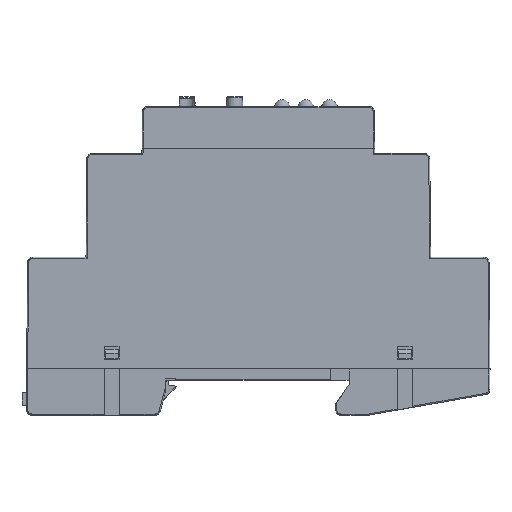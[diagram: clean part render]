
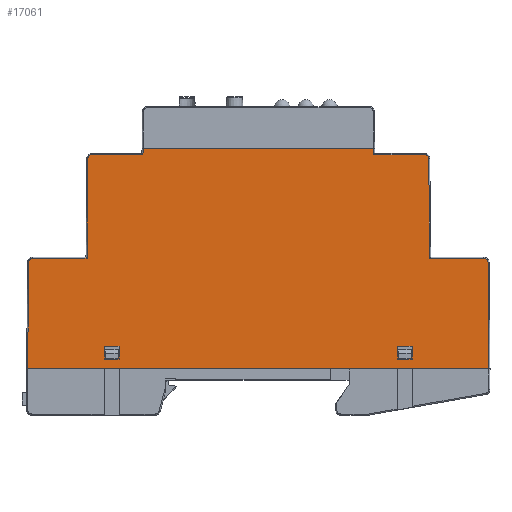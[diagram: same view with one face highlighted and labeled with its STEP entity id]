
A CAD part, top view. The second image highlights one B-rep face of the part: STEP entity #17061.
In plain terms, the highlighted planar face has unit normal (0, 0, 1).
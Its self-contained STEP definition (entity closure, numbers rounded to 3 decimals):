
#134=FACE_BOUND('',#1732,.T.);
#135=FACE_BOUND('',#1733,.T.);
#801=FACE_OUTER_BOUND('',#1731,.T.);
#1731=EDGE_LOOP('',(#11783,#11784,#11785,#11786,#11787,#11788,#11789,#11790,
#11791,#11792,#11793,#11794,#11795,#11796,#11797,#11798,#11799));
#1732=EDGE_LOOP('',(#11800,#11801,#11802,#11803));
#1733=EDGE_LOOP('',(#11804,#11805,#11806,#11807));
#2462=CIRCLE('',#17798,0.8);
#2592=CIRCLE('',#18181,0.8);
#2593=CIRCLE('',#18182,0.8);
#2594=CIRCLE('',#18183,0.8);
#2948=LINE('',#23945,#4754);
#2951=LINE('',#23953,#4757);
#2953=LINE('',#23958,#4759);
#2981=LINE('',#24099,#4787);
#2993=LINE('',#24132,#4799);
#3014=LINE('',#24210,#4820);
#3039=LINE('',#24267,#4845);
#3042=LINE('',#24273,#4848);
#3045=LINE('',#24279,#4851);
#3048=LINE('',#24285,#4854);
#3529=LINE('',#25627,#5335);
#3530=LINE('',#25631,#5336);
#3531=LINE('',#25632,#5337);
#3532=LINE('',#25634,#5338);
#3533=LINE('',#25636,#5339);
#3534=LINE('',#25640,#5340);
#3535=LINE('',#25642,#5341);
#3536=LINE('',#25645,#5342);
#3537=LINE('',#25646,#5343);
#3538=LINE('',#25647,#5344);
#3539=LINE('',#25648,#5345);
#4754=VECTOR('',#19235,10.);
#4757=VECTOR('',#19240,10.);
#4759=VECTOR('',#19244,10.);
#4787=VECTOR('',#19328,10.);
#4799=VECTOR('',#19360,10.);
#4820=VECTOR('',#19447,10.);
#4845=VECTOR('',#19490,10.);
#4848=VECTOR('',#19495,10.);
#4851=VECTOR('',#19500,10.);
#4854=VECTOR('',#19505,10.);
#5335=VECTOR('',#20658,10.);
#5336=VECTOR('',#20661,10.);
#5337=VECTOR('',#20662,10.);
#5338=VECTOR('',#20663,10.);
#5339=VECTOR('',#20664,10.);
#5340=VECTOR('',#20667,10.);
#5341=VECTOR('',#20668,10.);
#5342=VECTOR('',#20671,10.);
#5343=VECTOR('',#20672,10.);
#5344=VECTOR('',#20673,10.);
#5345=VECTOR('',#20674,10.);
#6561=VERTEX_POINT('',#23938);
#6564=VERTEX_POINT('',#23943);
#6567=VERTEX_POINT('',#23950);
#6568=VERTEX_POINT('',#23952);
#6569=VERTEX_POINT('',#23956);
#6570=VERTEX_POINT('',#23957);
#6604=VERTEX_POINT('',#24096);
#6605=VERTEX_POINT('',#24098);
#6614=VERTEX_POINT('',#24125);
#6615=VERTEX_POINT('',#24127);
#6616=VERTEX_POINT('',#24131);
#6663=VERTEX_POINT('',#24266);
#6665=VERTEX_POINT('',#24272);
#6667=VERTEX_POINT('',#24278);
#6669=VERTEX_POINT('',#24284);
#7087=VERTEX_POINT('',#25625);
#7088=VERTEX_POINT('',#25626);
#7089=VERTEX_POINT('',#25628);
#7090=VERTEX_POINT('',#25630);
#7091=VERTEX_POINT('',#25633);
#7092=VERTEX_POINT('',#25635);
#7093=VERTEX_POINT('',#25637);
#7094=VERTEX_POINT('',#25639);
#7095=VERTEX_POINT('',#25641);
#7096=VERTEX_POINT('',#25643);
#8104=EDGE_CURVE('',#6564,#6561,#2948,.T.);
#8107=EDGE_CURVE('',#6568,#6567,#2951,.T.);
#8109=EDGE_CURVE('',#6569,#6570,#2953,.T.);
#8156=EDGE_CURVE('',#6605,#6604,#2981,.T.);
#8171=EDGE_CURVE('',#6615,#6614,#2462,.T.);
#8172=EDGE_CURVE('',#6616,#6615,#2993,.T.);
#8211=EDGE_CURVE('',#6569,#6616,#3014,.T.);
#8241=EDGE_CURVE('',#6663,#6568,#3039,.T.);
#8244=EDGE_CURVE('',#6665,#6663,#3042,.T.);
#8247=EDGE_CURVE('',#6667,#6605,#3045,.T.);
#8250=EDGE_CURVE('',#6669,#6667,#3048,.T.);
#8864=EDGE_CURVE('',#7087,#7088,#3529,.T.);
#8865=EDGE_CURVE('',#7089,#7087,#2592,.T.);
#8866=EDGE_CURVE('',#7090,#7089,#3530,.T.);
#8867=EDGE_CURVE('',#6614,#7090,#3531,.T.);
#8868=EDGE_CURVE('',#7091,#6570,#3532,.T.);
#8869=EDGE_CURVE('',#7092,#7091,#3533,.T.);
#8870=EDGE_CURVE('',#7093,#7092,#2593,.T.);
#8871=EDGE_CURVE('',#7094,#7093,#3534,.T.);
#8872=EDGE_CURVE('',#7095,#7094,#3535,.T.);
#8873=EDGE_CURVE('',#7096,#7095,#2594,.T.);
#8874=EDGE_CURVE('',#6561,#7096,#3536,.T.);
#8875=EDGE_CURVE('',#7088,#6564,#3537,.T.);
#8876=EDGE_CURVE('',#6604,#6669,#3538,.T.);
#8877=EDGE_CURVE('',#6567,#6665,#3539,.T.);
#11783=ORIENTED_EDGE('',*,*,#8864,.F.);
#11784=ORIENTED_EDGE('',*,*,#8865,.F.);
#11785=ORIENTED_EDGE('',*,*,#8866,.F.);
#11786=ORIENTED_EDGE('',*,*,#8867,.F.);
#11787=ORIENTED_EDGE('',*,*,#8171,.F.);
#11788=ORIENTED_EDGE('',*,*,#8172,.F.);
#11789=ORIENTED_EDGE('',*,*,#8211,.F.);
#11790=ORIENTED_EDGE('',*,*,#8109,.T.);
#11791=ORIENTED_EDGE('',*,*,#8868,.F.);
#11792=ORIENTED_EDGE('',*,*,#8869,.F.);
#11793=ORIENTED_EDGE('',*,*,#8870,.F.);
#11794=ORIENTED_EDGE('',*,*,#8871,.F.);
#11795=ORIENTED_EDGE('',*,*,#8872,.F.);
#11796=ORIENTED_EDGE('',*,*,#8873,.F.);
#11797=ORIENTED_EDGE('',*,*,#8874,.F.);
#11798=ORIENTED_EDGE('',*,*,#8104,.F.);
#11799=ORIENTED_EDGE('',*,*,#8875,.F.);
#11800=ORIENTED_EDGE('',*,*,#8250,.T.);
#11801=ORIENTED_EDGE('',*,*,#8247,.T.);
#11802=ORIENTED_EDGE('',*,*,#8156,.T.);
#11803=ORIENTED_EDGE('',*,*,#8876,.T.);
#11804=ORIENTED_EDGE('',*,*,#8877,.T.);
#11805=ORIENTED_EDGE('',*,*,#8244,.T.);
#11806=ORIENTED_EDGE('',*,*,#8241,.T.);
#11807=ORIENTED_EDGE('',*,*,#8107,.T.);
#15521=PLANE('',#18180);
#17061=ADVANCED_FACE('',(#801,#134,#135),#15521,.T.);
#17798=AXIS2_PLACEMENT_3D('',#24129,#19356,#19357);
#18180=AXIS2_PLACEMENT_3D('',#25624,#20656,#20657);
#18181=AXIS2_PLACEMENT_3D('',#25629,#20659,#20660);
#18182=AXIS2_PLACEMENT_3D('',#25638,#20665,#20666);
#18183=AXIS2_PLACEMENT_3D('',#25644,#20669,#20670);
#19235=DIRECTION('',(0.009,1.,0.));
#19240=DIRECTION('',(0.,1.,0.));
#19244=DIRECTION('',(-1.,0.,0.));
#19328=DIRECTION('',(0.,1.,0.));
#19356=DIRECTION('center_axis',(0.,0.,
-1.));
#19357=DIRECTION('ref_axis',(0.704,0.71,0.));
#19360=DIRECTION('',(1.,0.,0.));
#19447=DIRECTION('',(0.009,-1.,0.));
#19490=DIRECTION('',(-1.,0.,0.));
#19495=DIRECTION('',(0.,-1.,0.));
#19500=DIRECTION('',(-1.,0.,0.));
#19505=DIRECTION('',(0.,-1.,0.));
#20656=DIRECTION('center_axis',(0.,0.,
1.));
#20657=DIRECTION('ref_axis',(1.,0.,0.));
#20658=DIRECTION('',(0.009,-1.,0.));
#20659=DIRECTION('center_axis',(0.,0.,
-1.));
#20660=DIRECTION('ref_axis',(0.704,0.71,0.));
#20661=DIRECTION('',(1.,0.,0.));
#20662=DIRECTION('',(0.009,-1.,0.));
#20663=DIRECTION('',(0.009,1.,0.));
#20664=DIRECTION('',(1.,0.,0.));
#20665=DIRECTION('center_axis',(0.,0.,
-1.));
#20666=DIRECTION('ref_axis',(-0.704,0.71,0.));
#20667=DIRECTION('',(0.009,1.,0.));
#20668=DIRECTION('',(1.,0.,0.));
#20669=DIRECTION('center_axis',(0.,0.,
-1.));
#20670=DIRECTION('ref_axis',(-0.704,0.71,0.));
#20671=DIRECTION('',(0.009,1.,0.));
#20672=DIRECTION('',(-1.,0.,0.));
#20673=DIRECTION('',(1.,0.,0.));
#20674=DIRECTION('',(1.,0.,0.));
#23938=CARTESIAN_POINT('',(-44.662,5.55,8.9));
#23943=CARTESIAN_POINT('',(-44.7,1.15,8.9));
#23945=CARTESIAN_POINT('',(-44.482,26.121,8.9));
#23950=CARTESIAN_POINT('',(-29.8,5.55,8.9));
#23952=CARTESIAN_POINT('',(-29.8,3.05,8.9));
#23953=CARTESIAN_POINT('',(-29.8,15.969,8.9));
#23956=CARTESIAN_POINT('',(22.341,43.9,8.9));
#23957=CARTESIAN_POINT('',(-22.341,43.9,8.9));
#23958=CARTESIAN_POINT('',(-20.902,43.9,8.9));
#24096=CARTESIAN_POINT('',(27.,5.55,8.9));
#24098=CARTESIAN_POINT('',(27.,3.05,8.9));
#24099=CARTESIAN_POINT('',(27.,17.219,8.9));
#24125=CARTESIAN_POINT('',(33.033,41.907,8.9));
#24127=CARTESIAN_POINT('',(32.233,42.7,8.9));
#24129=CARTESIAN_POINT('Origin',(32.233,41.9,8.9));
#24131=CARTESIAN_POINT('',(22.352,42.7,8.9));
#24132=CARTESIAN_POINT('',(1.643,42.7,8.9));
#24210=CARTESIAN_POINT('',(22.322,46.125,8.9));
#24266=CARTESIAN_POINT('',(-27.,3.05,8.9));
#24267=CARTESIAN_POINT('',(-3.868,3.05,8.9));
#24272=CARTESIAN_POINT('',(-27.,5.55,8.9));
#24273=CARTESIAN_POINT('',(-27.,17.219,8.9));
#24278=CARTESIAN_POINT('',(29.8,3.05,8.9));
#24279=CARTESIAN_POINT('',(3.868,3.05,8.9));
#24284=CARTESIAN_POINT('',(29.8,5.55,8.9));
#24285=CARTESIAN_POINT('',(29.8,15.969,8.9));
#25624=CARTESIAN_POINT('Origin',(19.263,28.888,8.9));
#25625=CARTESIAN_POINT('',(44.52,21.807,8.9));
#25626=CARTESIAN_POINT('',(44.7,1.15,8.9));
#25627=CARTESIAN_POINT('',(44.482,26.121,8.9));
#25628=CARTESIAN_POINT('',(43.72,22.6,8.9));
#25629=CARTESIAN_POINT('Origin',(43.72,21.8,8.9));
#25630=CARTESIAN_POINT('',(33.202,22.6,8.9));
#25631=CARTESIAN_POINT('',(7.068,22.6,8.9));
#25632=CARTESIAN_POINT('',(33.084,36.122,8.9));
#25633=CARTESIAN_POINT('',(-22.352,42.7,8.9));
#25634=CARTESIAN_POINT('',(-22.323,45.957,8.9));
#25635=CARTESIAN_POINT('',(-32.233,42.7,8.9));
#25636=CARTESIAN_POINT('',(-20.907,42.7,8.9));
#25637=CARTESIAN_POINT('',(-33.033,41.907,8.9));
#25638=CARTESIAN_POINT('Origin',(-32.233,41.9,8.9));
#25639=CARTESIAN_POINT('',(-33.202,22.6,8.9));
#25640=CARTESIAN_POINT('',(-33.085,35.953,8.9));
#25641=CARTESIAN_POINT('',(-43.72,22.6,8.9));
#25642=CARTESIAN_POINT('',(-26.332,22.6,8.9));
#25643=CARTESIAN_POINT('',(-44.52,21.807,8.9));
#25644=CARTESIAN_POINT('Origin',(-43.72,21.8,8.9));
#25645=CARTESIAN_POINT('',(-44.484,25.953,8.9));
#25646=CARTESIAN_POINT('',(44.9,1.15,8.9));
#25647=CARTESIAN_POINT('',(5.268,5.55,8.9));
#25648=CARTESIAN_POINT('',(-24.532,5.55,8.9));
